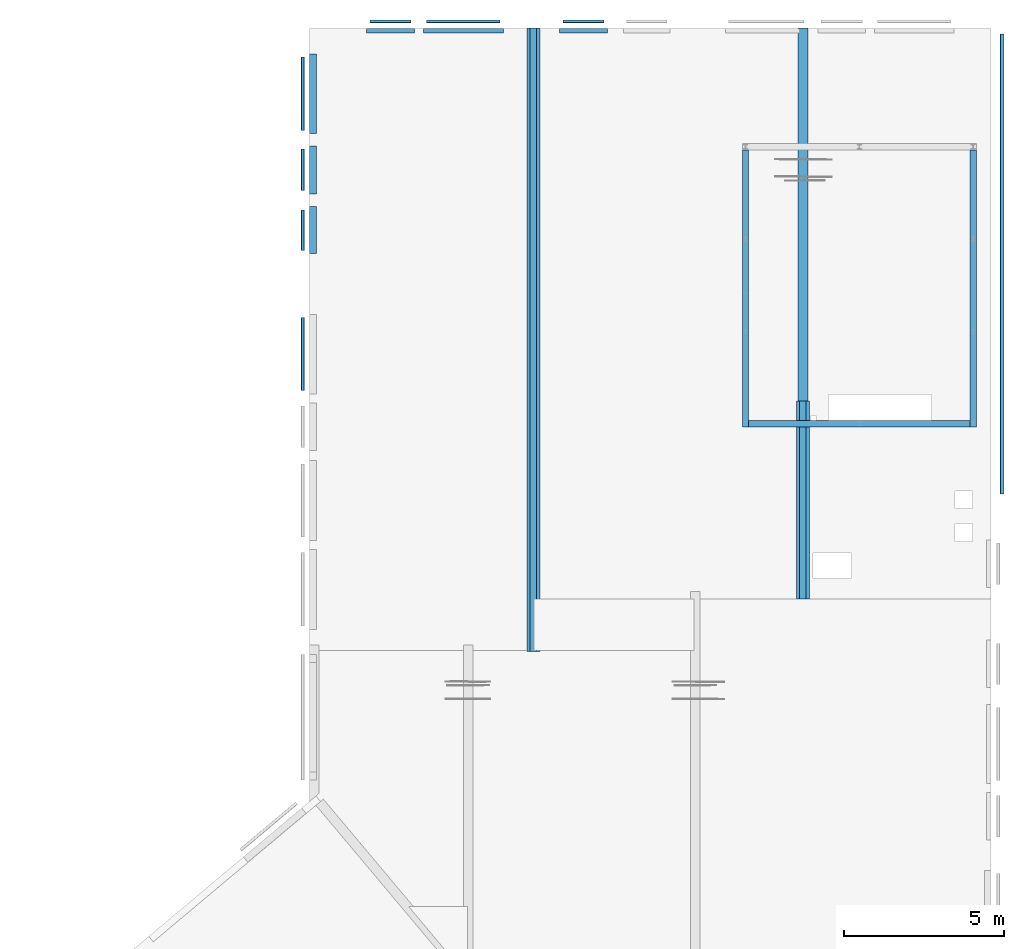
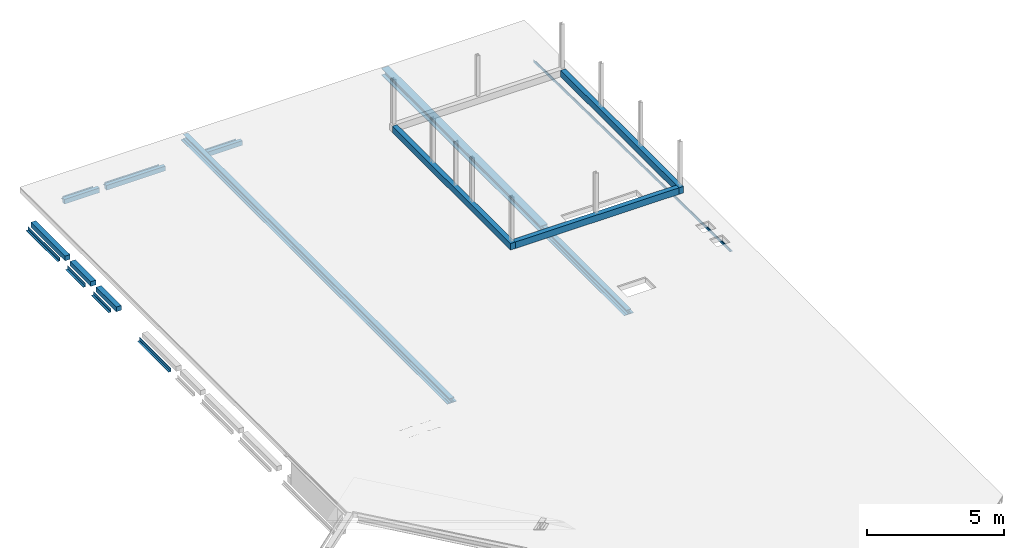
# One storey, part 5 of 9: 20 beams.
"""IFC2X3 building model written with IfcOpenShell, lengths in millimetres."""

from ifc_helpers import new_model, entity, si_unit, converted_unit, derived_unit, direction, frame, frame_2d, origin, origin_2d_with_axis, place, context, subcontext, project, spatial, polyline, circle_curve, parameter, trimmed, segment, composite_curve, rectangle, i_section, outline, extrude, source, transform, mapped, material, material_list, type_object, type_shapes, element, save


model = new_model("IFC2X3")

# Units and contexts
model_context = context("Model", 3, precision=0.01, world=origin(), true_north=direction((6.12303176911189e-17, 1.0)))
body_context = subcontext(model_context, "Body", "Model", "MODEL_VIEW")
ifc_project = project(units=[si_unit("LENGTHUNIT", "METRE", prefix="MILLI"), si_unit("AREAUNIT", "SQUARE_METRE"), si_unit("VOLUMEUNIT", "CUBIC_METRE"), converted_unit("PLANEANGLEUNIT", "DEGREE", entity("IfcRatioMeasure", 0.0174532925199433), si_unit("PLANEANGLEUNIT", "RADIAN"), dimensions=[0, 0, 0, 0, 0, 0, 0]), si_unit("MASSUNIT", "GRAM", prefix="KILO"), derived_unit("MASSDENSITYUNIT", [(si_unit("MASSUNIT", "GRAM", prefix="KILO"), 1), (si_unit("LENGTHUNIT", "METRE"), -3)]), derived_unit("MOMENTOFINERTIAUNIT", [(si_unit("LENGTHUNIT", "METRE"), 4)]), si_unit("TIMEUNIT", "SECOND"), si_unit("FREQUENCYUNIT", "HERTZ"), si_unit("THERMODYNAMICTEMPERATUREUNIT", "DEGREE_CELSIUS"), derived_unit("THERMALTRANSMITTANCEUNIT", [(si_unit("MASSUNIT", "GRAM", prefix="KILO"), 1), (si_unit("THERMODYNAMICTEMPERATUREUNIT", "KELVIN"), -1), (si_unit("TIMEUNIT", "SECOND"), -3)]), derived_unit("VOLUMETRICFLOWRATEUNIT", [(si_unit("LENGTHUNIT", "METRE"), 3), (si_unit("TIMEUNIT", "SECOND"), -1)]), si_unit("ELECTRICCURRENTUNIT", "AMPERE"), si_unit("ELECTRICVOLTAGEUNIT", "VOLT"), si_unit("POWERUNIT", "WATT"), si_unit("FORCEUNIT", "NEWTON", prefix="KILO"), si_unit("ILLUMINANCEUNIT", "LUX"), si_unit("LUMINOUSFLUXUNIT", "LUMEN"), si_unit("LUMINOUSINTENSITYUNIT", "CANDELA"), derived_unit("USERDEFINED", [(si_unit("MASSUNIT", "GRAM", prefix="KILO"), -1), (si_unit("LENGTHUNIT", "METRE"), -2), (si_unit("TIMEUNIT", "SECOND"), 3), (si_unit("LUMINOUSFLUXUNIT", "LUMEN"), 1)]), derived_unit("LINEARVELOCITYUNIT", [(si_unit("LENGTHUNIT", "METRE"), 1), (si_unit("TIMEUNIT", "SECOND"), -1)]), si_unit("PRESSUREUNIT", "PASCAL"), derived_unit("USERDEFINED", [(si_unit("LENGTHUNIT", "METRE"), -2), (si_unit("MASSUNIT", "GRAM", prefix="KILO"), 1), (si_unit("TIMEUNIT", "SECOND"), -2)]), derived_unit("LINEARFORCEUNIT", [(si_unit("MASSUNIT", "GRAM", prefix="KILO"), 1), (si_unit("LENGTHUNIT", "METRE"), 1), (si_unit("TIMEUNIT", "SECOND"), -2), (si_unit("LENGTHUNIT", "METRE"), -1)]), derived_unit("PLANARFORCEUNIT", [(si_unit("MASSUNIT", "GRAM", prefix="KILO"), 1), (si_unit("LENGTHUNIT", "METRE"), 1), (si_unit("TIMEUNIT", "SECOND"), -2), (si_unit("LENGTHUNIT", "METRE"), -2)])], contexts=[model_context])

# Site, building, storey
site_placement = place(None, origin())
site = spatial("IfcSite", under=ifc_project, at=site_placement, Name="Default", CompositionType="ELEMENT")
building_placement = place(site_placement, origin())
building = spatial("IfcBuilding", under=site, at=building_placement, CompositionType="ELEMENT")
storey_placement = place(building_placement, frame((0.0, 0.0, 7000.0)))
storey = spatial("IfcBuildingStorey", under=building, at=storey_placement, Name="02 tweede verdieping", CompositionType="ELEMENT", Elevation=7000.00000000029)

# Beams
ifc_material_1 = material(Name="h2_staal")
beam_type_1 = type_object("IfcBeamType", Name="BERSnl_28_SF_LIB_balk sfb_gen_ISR:balk gen heb200 400x15", PredefinedType="T_BEAM", material=ifc_material_1)
shared_shape_1 = source(origin(), body_context, "Body", "SweptSolid", [
    extrude(rectangle(XDim=15.0, YDim=400.0, at=origin_2d_with_axis()), frame((-1233.78521422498, 0.0, -60.5000000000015), z_axis=(1.0, 0.0, 0.0), x_axis=(0.0, 0.0, -1.0)), (0.0, 0.0, 1.0), 19429.9936123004),
    extrude(outline(composite_curve([segment(polyline([(85.0, -100.0), (100.0, -100.0)]), True, "CONTINUOUS"), segment(polyline([(100.0, -100.0), (100.0, 100.0)]), True, "CONTINUOUS"), segment(polyline([(100.0, 100.0), (85.0, 100.0)]), True, "CONTINUOUS"), segment(polyline([(85.0, 100.0), (85.0, 22.4999999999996)]), True, "CONTINUOUS"), segment(trimmed(circle_curve(frame_2d((67.0, 22.4999999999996), x_axis=(1.0, 0.0)), 18.0), [parameter(270.0)], [parameter(0.0)], True, "PARAMETER"), False, "CONTINUOUS"), segment(polyline([(67.0, 4.49999999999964), (-67.0, 4.49999999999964)]), True, "CONTINUOUS"), segment(trimmed(circle_curve(frame_2d((-67.0, 22.4999999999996), x_axis=(0.0, -1.0)), 18.0), [parameter(270.0)], [parameter(0.0)], True, "PARAMETER"), False, "CONTINUOUS"), segment(polyline([(-85.0, 22.4999999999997), (-85.0, 100.0)]), True, "CONTINUOUS"), segment(polyline([(-85.0, 100.0), (-100.0, 100.0)]), True, "CONTINUOUS"), segment(polyline([(-100.0, 100.0), (-100.0, -100.0)]), True, "CONTINUOUS"), segment(polyline([(-100.0, -100.0), (-85.0, -100.0)]), True, "CONTINUOUS"), segment(polyline([(-85.0, -100.0), (-85.0, -22.5000000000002)]), True, "CONTINUOUS"), segment(trimmed(circle_curve(frame_2d((-67.0, -22.5000000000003), x_axis=(-1.0, 0.0)), 18.0), [parameter(270.0)], [parameter(0.0)], True, "PARAMETER"), False, "CONTINUOUS"), segment(polyline([(-67.0, -4.50000000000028), (67.0, -4.50000000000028)]), True, "CONTINUOUS"), segment(trimmed(circle_curve(frame_2d((67.0, -22.5000000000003), x_axis=(0.0, 1.0)), 18.0), [parameter(270.0)], [parameter(0.0)], True, "PARAMETER"), False, "CONTINUOUS"), segment(polyline([(85.0, -22.5000000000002), (85.0, -100.0)]), True, "CONTINUOUS")], self_intersect=False)), frame((-1233.94365702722, 0.0, 47.0), z_axis=(1.0, 0.0, 0.0), x_axis=(0.0, 0.0, -1.0)), (0.0, 0.0, 1.0), 19430.1584428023),
])
type_shapes(beam_type_1, [shared_shape_1])
beam_1_placement = place(storey_placement, frame((20569.4349765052, 34273.3529712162, 893.0), z_axis=(0.0, 0.0, 1.0), x_axis=(0.0, -1.0, 0.0)))
element("IfcBeam", 1, at=beam_1_placement, inside=storey, type_object=beam_type_1, Name="BERSnl_28_SF_LIB_balk sfb_gen_ISR:balk gen heb200 400x15", ObjectType="BERSnl_28_SF_LIB_balk sfb_gen_ISR:balk gen heb200 400x15", context=body_context, shape_type="MappedRepresentation", body=[
    mapped(shared_shape_1, transform((0.0, 0.0, 0.0), scale=1.0)),
])
ifc_material_2 = material(Name="00_Staal_generiek")
beam_type_2 = type_object("IfcBeamType", Name="BERSnl_28_SF_LIB_balk hoeklijn ongelijk_gen_ISR:balk gen l150x100x10", PredefinedType="BEAM")
beam_2_placement = place(storey_placement, frame((15649.6148490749, 35679.6966282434, -60.0)))
element("IfcBeam", 2, at=beam_2_placement, inside=storey, type_object=beam_type_2, material=ifc_material_2, Name="BERSnl_28_SF_LIB_balk hoeklijn ongelijk_gen_ISR:balk gen l150x100x10", ObjectType="BERSnl_28_SF_LIB_balk hoeklijn ongelijk_gen_ISR:balk gen l150x100x10", context=body_context, shape_type="SweptSolid", body=[
    extrude(outline(composite_curve([segment(polyline([(-95.5555555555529, -37.7777777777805), (54.4444444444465, -37.7777777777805)]), True, "CONTINUOUS"), segment(polyline([(54.4444444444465, -37.7777777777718), (54.4444444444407, 62.2222222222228)]), True, "CONTINUOUS"), segment(polyline([(54.4444444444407, 62.2222222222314), (50.4444444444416, 62.2222222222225)]), True, "CONTINUOUS"), segment(trimmed(circle_curve(frame_2d((50.4444444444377, 56.2222222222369), x_axis=(0.0, 1.0)), 5.99999999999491), [parameter(0.0)], [parameter(90.0000000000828)], True, "PARAMETER"), True, "CONTINUOUS"), segment(polyline([(44.4444444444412, 56.2222222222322), (44.4444444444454, -15.7777777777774)]), True, "CONTINUOUS"), segment(trimmed(circle_curve(frame_2d((32.4444444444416, -15.7777777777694), x_axis=(1.0, 0.0)), 12.0000000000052), [parameter(270.000000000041)], [parameter(0.0)], True, "PARAMETER"), False, "CONTINUOUS"), segment(polyline([(32.4444444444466, -27.7777777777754), (-89.5555555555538, -27.7777777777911)]), True, "CONTINUOUS"), segment(trimmed(circle_curve(frame_2d((-89.5555555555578, -33.7777777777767), x_axis=(0.0, 1.0)), 5.99999999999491), [parameter(0.0)], [parameter(90.0000000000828)], True, "PARAMETER"), True, "CONTINUOUS"), segment(polyline([(-95.5555555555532, -33.7777777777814), (-95.5555555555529, -37.7777777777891)]), True, "CONTINUOUS")], self_intersect=False)), frame((-172.17987256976, 14.377777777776, -95.5555555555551), z_axis=(1.0, 0.0, 0.0), x_axis=(0.0, 0.0, -1.0)), (0.0, 0.0, 1.0), 1288.00000000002),
])
beam_3_placement = place(storey_placement, frame((17644.6148490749, 35679.6966282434, -60.0)))
element("IfcBeam", 3, at=beam_3_placement, inside=storey, type_object=beam_type_2, material=ifc_material_2, Name="BERSnl_28_SF_LIB_balk hoeklijn ongelijk_gen_ISR:balk gen l150x100x10", ObjectType="BERSnl_28_SF_LIB_balk hoeklijn ongelijk_gen_ISR:balk gen l150x100x10", context=body_context, shape_type="SweptSolid", body=[
    extrude(outline(composite_curve([segment(polyline([(-95.5555555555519, -37.7777777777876), (54.4444444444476, -37.7777777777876)]), True, "CONTINUOUS"), segment(polyline([(54.4444444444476, -37.7777777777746), (54.4444444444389, 62.2222222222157)]), True, "CONTINUOUS"), segment(polyline([(54.4444444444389, 62.2222222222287), (50.4444444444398, 62.2222222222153)]), True, "CONTINUOUS"), segment(trimmed(circle_curve(frame_2d((50.4444444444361, 56.222222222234), x_axis=(0.0, 1.0)), 5.99999999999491), [parameter(0.0)], [parameter(90.0000000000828)], True, "PARAMETER"), True, "CONTINUOUS"), segment(polyline([(44.4444444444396, 56.2222222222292), (44.4444444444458, -15.7777777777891)]), True, "CONTINUOUS"), segment(trimmed(circle_curve(frame_2d((32.444444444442, -15.7777777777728), x_axis=(1.0, 0.0)), 12.0000000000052), [parameter(270.000000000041)], [parameter(0.0)], True, "PARAMETER"), False, "CONTINUOUS"), segment(polyline([(32.4444444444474, -27.7777777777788), (-89.555555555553, -27.7777777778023)]), True, "CONTINUOUS"), segment(trimmed(circle_curve(frame_2d((-89.5555555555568, -33.7777777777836), x_axis=(0.0, 1.0)), 5.99999999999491), [parameter(0.0)], [parameter(90.0000000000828)], True, "PARAMETER"), True, "CONTINUOUS"), segment(polyline([(-95.5555555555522, -33.7777777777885), (-95.5555555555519, -37.7777777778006)]), True, "CONTINUOUS")], self_intersect=False)), frame((-397.179872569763, 14.3777777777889, -95.5555555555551), z_axis=(1.0, 0.0, 0.0), x_axis=(0.0, 0.0, -1.0)), (0.0, 0.0, 1.0), 2288.00000000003),
])
beam_4_placement = place(storey_placement, frame((13412.0349765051, 32785.7558071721, -60.0), z_axis=(0.0, 0.0, 1.0), x_axis=(0.0, 1.0, 0.0)))
element("IfcBeam", 4, at=beam_4_placement, inside=storey, type_object=beam_type_2, material=ifc_material_2, Name="BERSnl_28_SF_LIB_balk hoeklijn ongelijk_gen_ISR:balk gen l150x100x10", ObjectType="BERSnl_28_SF_LIB_balk hoeklijn ongelijk_gen_ISR:balk gen l150x100x10", context=body_context, shape_type="SweptSolid", body=[
    extrude(outline(composite_curve([segment(polyline([(-95.5555555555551, -37.7777777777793), (54.4444444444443, -37.7777777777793)]), True, "CONTINUOUS"), segment(polyline([(54.4444444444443, -37.7777777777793), (54.4444444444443, 62.222222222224)]), True, "CONTINUOUS"), segment(polyline([(54.4444444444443, 62.222222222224), (50.4444444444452, 62.222222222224)]), True, "CONTINUOUS"), segment(trimmed(circle_curve(frame_2d((50.4444444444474, 56.222222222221), x_axis=(0.0, 1.0)), 6.00000000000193), [parameter(0.0)], [parameter(89.9999999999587)], True, "PARAMETER"), True, "CONTINUOUS"), segment(polyline([(44.4444444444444, 56.2222222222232), (44.4444444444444, -15.77777777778)]), True, "CONTINUOUS"), segment(trimmed(circle_curve(frame_2d((32.4444444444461, -15.77777777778), x_axis=(1.0, 0.0)), 11.999999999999), [parameter(269.999999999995)], [parameter(0.0)], True, "PARAMETER"), False, "CONTINUOUS"), segment(polyline([(32.444444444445, -27.7777777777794), (-89.5555555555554, -27.7777777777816)]), True, "CONTINUOUS"), segment(trimmed(circle_curve(frame_2d((-89.5555555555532, -33.7777777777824), x_axis=(0.0, 1.0)), 6.00000000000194), [parameter(0.0)], [parameter(89.9999999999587)], True, "PARAMETER"), True, "CONTINUOUS"), segment(polyline([(-95.5555555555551, -33.7777777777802), (-95.5555555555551, -37.7777777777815)]), True, "CONTINUOUS")], self_intersect=False)), frame((-467.459178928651, 14.3777777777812, -95.5555555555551), z_axis=(1.0, 0.0, 0.0), x_axis=(0.0, 0.0, -1.0)), (0.0, 0.0, 1.0), 2286.0),
])
beam_5_placement = place(storey_placement, frame((13412.0349765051, 29936.0959877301, -60.0), z_axis=(0.0, 0.0, 1.0), x_axis=(0.0, 1.0, 0.0)))
element("IfcBeam", 5, at=beam_5_placement, inside=storey, type_object=beam_type_2, material=ifc_material_2, Name="BERSnl_28_SF_LIB_balk hoeklijn ongelijk_gen_ISR:balk gen l150x100x10", ObjectType="BERSnl_28_SF_LIB_balk hoeklijn ongelijk_gen_ISR:balk gen l150x100x10", context=body_context, shape_type="SweptSolid", body=[
    extrude(outline(composite_curve([segment(polyline([(-95.5555555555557, -37.7777777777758), (54.4444444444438, -37.7777777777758)]), True, "CONTINUOUS"), segment(polyline([(54.4444444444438, -37.7777777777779), (54.4444444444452, 62.2222222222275)]), True, "CONTINUOUS"), segment(polyline([(54.4444444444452, 62.2222222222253), (50.4444444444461, 62.2222222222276)]), True, "CONTINUOUS"), segment(trimmed(circle_curve(frame_2d((50.4444444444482, 56.2222222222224), x_axis=(0.0, 1.0)), 6.00000000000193), [parameter(0.0)], [parameter(89.9999999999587)], True, "PARAMETER"), True, "CONTINUOUS"), segment(polyline([(44.4444444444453, 56.2222222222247), (44.4444444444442, -15.7777777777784)]), True, "CONTINUOUS"), segment(trimmed(circle_curve(frame_2d((32.4444444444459, -15.7777777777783), x_axis=(1.0, 0.0)), 11.999999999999), [parameter(269.999999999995)], [parameter(0.0)], True, "PARAMETER"), False, "CONTINUOUS"), segment(polyline([(32.4444444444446, -27.7777777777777), (-89.5555555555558, -27.7777777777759)]), True, "CONTINUOUS"), segment(trimmed(circle_curve(frame_2d((-89.5555555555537, -33.7777777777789), x_axis=(0.0, 1.0)), 6.00000000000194), [parameter(0.0)], [parameter(89.9999999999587)], True, "PARAMETER"), True, "CONTINUOUS"), segment(polyline([(-95.5555555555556, -33.7777777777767), (-95.5555555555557, -37.7777777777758)]), True, "CONTINUOUS")], self_intersect=False)), frame((502.378379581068, 14.3777777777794, -95.5555555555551), z_axis=(1.0, 0.0, 0.0), x_axis=(0.0, 0.0, -1.0)), (0.0, 0.0, 1.0), 1298.06822809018),
])
beam_6_placement = place(storey_placement, frame((13412.0349765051, 28286.0959877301, -60.0), z_axis=(0.0, 0.0, 1.0), x_axis=(0.0, 1.0, 0.0)))
element("IfcBeam", 6, at=beam_6_placement, inside=storey, type_object=beam_type_2, material=ifc_material_2, Name="BERSnl_28_SF_LIB_balk hoeklijn ongelijk_gen_ISR:balk gen l150x100x10", ObjectType="BERSnl_28_SF_LIB_balk hoeklijn ongelijk_gen_ISR:balk gen l150x100x10", context=body_context, shape_type="SweptSolid", body=[
    extrude(outline(composite_curve([segment(polyline([(-95.5555555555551, -37.7777777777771), (54.4444444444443, -37.7777777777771)]), True, "CONTINUOUS"), segment(polyline([(54.4444444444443, -37.7777777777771), (54.4444444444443, 62.2222222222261)]), True, "CONTINUOUS"), segment(polyline([(54.4444444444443, 62.2222222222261), (50.4444444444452, 62.222222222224)]), True, "CONTINUOUS"), segment(trimmed(circle_curve(frame_2d((50.4444444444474, 56.2222222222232), x_axis=(0.0, 1.0)), 6.00000000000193), [parameter(0.0)], [parameter(89.9999999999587)], True, "PARAMETER"), True, "CONTINUOUS"), segment(polyline([(44.4444444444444, 56.2222222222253), (44.4444444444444, -15.77777777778)]), True, "CONTINUOUS"), segment(trimmed(circle_curve(frame_2d((32.4444444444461, -15.7777777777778), x_axis=(1.0, 0.0)), 11.999999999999), [parameter(269.999999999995)], [parameter(0.0)], True, "PARAMETER"), False, "CONTINUOUS"), segment(polyline([(32.444444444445, -27.7777777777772), (-89.5555555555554, -27.7777777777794)]), True, "CONTINUOUS"), segment(trimmed(circle_curve(frame_2d((-89.5555555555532, -33.7777777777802), x_axis=(0.0, 1.0)), 6.00000000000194), [parameter(0.0)], [parameter(89.9999999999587)], True, "PARAMETER"), True, "CONTINUOUS"), segment(polyline([(-95.5555555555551, -33.777777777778), (-95.5555555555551, -37.7777777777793)]), True, "CONTINUOUS")], self_intersect=False)), frame((289.636772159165, 14.3777777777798, -95.5555555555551), z_axis=(1.0, 0.0, 0.0), x_axis=(0.0, 0.0, -1.0)), (0.0, 0.0, 1.0), 1268.74160742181),
])
beam_7_placement = place(storey_placement, frame((13412.0349765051, 25091.4664529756, -60.0), z_axis=(0.0, 0.0, 1.0), x_axis=(0.0, 1.0, 0.0)))
element("IfcBeam", 7, at=beam_7_placement, inside=storey, type_object=beam_type_2, material=ifc_material_2, Name="BERSnl_28_SF_LIB_balk hoeklijn ongelijk_gen_ISR:balk gen l150x100x10", ObjectType="BERSnl_28_SF_LIB_balk hoeklijn ongelijk_gen_ISR:balk gen l150x100x10", context=body_context, shape_type="SweptSolid", body=[
    extrude(outline(composite_curve([segment(polyline([(-95.5555555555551, -37.7777777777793), (54.4444444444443, -37.7777777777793)]), True, "CONTINUOUS"), segment(polyline([(54.4444444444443, -37.7777777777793), (54.4444444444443, 62.2222222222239)]), True, "CONTINUOUS"), segment(polyline([(54.4444444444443, 62.2222222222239), (50.4444444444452, 62.2222222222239)]), True, "CONTINUOUS"), segment(trimmed(circle_curve(frame_2d((50.4444444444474, 56.222222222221), x_axis=(0.0, 1.0)), 6.00000000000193), [parameter(0.0)], [parameter(89.9999999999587)], True, "PARAMETER"), True, "CONTINUOUS"), segment(polyline([(44.4444444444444, 56.2222222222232), (44.4444444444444, -15.77777777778)]), True, "CONTINUOUS"), segment(trimmed(circle_curve(frame_2d((32.4444444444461, -15.77777777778), x_axis=(1.0, 0.0)), 11.999999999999), [parameter(269.999999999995)], [parameter(0.0)], True, "PARAMETER"), False, "CONTINUOUS"), segment(polyline([(32.444444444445, -27.7777777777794), (-89.5555555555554, -27.7777777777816)]), True, "CONTINUOUS"), segment(trimmed(circle_curve(frame_2d((-89.5555555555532, -33.7777777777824), x_axis=(0.0, 1.0)), 6.00000000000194), [parameter(0.0)], [parameter(89.9999999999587)], True, "PARAMETER"), True, "CONTINUOUS"), segment(polyline([(-95.5555555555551, -33.7777777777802), (-95.5555555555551, -37.7777777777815)]), True, "CONTINUOUS")], self_intersect=False)), frame((-884.455200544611, 14.37777777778, -95.5555555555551), z_axis=(1.0, 0.0, 0.0), x_axis=(0.0, 0.0, -1.0)), (0.0, 0.0, 1.0), 2277.87187512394),
])
beam_8_placement = place(storey_placement, frame((21704.6148490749, 35679.6966282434, -60.0)))
element("IfcBeam", 8, at=beam_8_placement, inside=storey, type_object=beam_type_2, material=ifc_material_2, Name="BERSnl_28_SF_LIB_balk hoeklijn ongelijk_gen_ISR:balk gen l150x100x10", ObjectType="BERSnl_28_SF_LIB_balk hoeklijn ongelijk_gen_ISR:balk gen l150x100x10", context=body_context, shape_type="SweptSolid", body=[
    extrude(outline(composite_curve([segment(polyline([(-95.5555555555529, -37.7777777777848), (54.4444444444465, -37.7777777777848)]), True, "CONTINUOUS"), segment(polyline([(54.4444444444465, -37.7777777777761), (54.4444444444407, 62.2222222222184)]), True, "CONTINUOUS"), segment(polyline([(54.4444444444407, 62.2222222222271), (50.4444444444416, 62.2222222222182)]), True, "CONTINUOUS"), segment(trimmed(circle_curve(frame_2d((50.4444444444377, 56.2222222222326), x_axis=(0.0, 1.0)), 5.99999999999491), [parameter(0.0)], [parameter(90.0000000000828)], True, "PARAMETER"), True, "CONTINUOUS"), segment(polyline([(44.4444444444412, 56.2222222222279), (44.4444444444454, -15.7777777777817)]), True, "CONTINUOUS"), segment(trimmed(circle_curve(frame_2d((32.4444444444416, -15.7777777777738), x_axis=(1.0, 0.0)), 12.0000000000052), [parameter(270.000000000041)], [parameter(0.0)], True, "PARAMETER"), False, "CONTINUOUS"), segment(polyline([(32.4444444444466, -27.7777777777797), (-89.5555555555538, -27.7777777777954)]), True, "CONTINUOUS"), segment(trimmed(circle_curve(frame_2d((-89.5555555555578, -33.777777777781), x_axis=(0.0, 1.0)), 5.99999999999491), [parameter(0.0)], [parameter(90.0000000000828)], True, "PARAMETER"), True, "CONTINUOUS"), segment(polyline([(-95.5555555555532, -33.7777777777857), (-95.5555555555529, -37.7777777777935)]), True, "CONTINUOUS")], self_intersect=False)), frame((-217.179872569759, 14.377777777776, -95.5555555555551), z_axis=(1.0, 0.0, 0.0), x_axis=(0.0, 0.0, -1.0)), (0.0, 0.0, 1.0), 1288.00000000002),
])
ifc_material_3 = material(Name="f2_beton prefab")
beam_type_3 = type_object("IfcBeamType", Name="BERSnl_28_SF_LIB_balk vierkant prefab_gen_ISR:balk vierkant gen 150x210", PredefinedType="JOIST")
beam_9_placement = place(storey_placement, frame((16892.0442349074, 35420.9488747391, 10.0), z_axis=(0.0, 0.0, 1.0), x_axis=(-1.0, 0.0, 0.0)))
element("IfcBeam", 9, at=beam_9_placement, inside=storey, type_object=beam_type_3, material=ifc_material_3, Name="BERSnl_28_SF_LIB_balk vierkant prefab_gen_ISR:balk vierkant gen 150x210", ObjectType="BERSnl_28_SF_LIB_balk vierkant prefab_gen_ISR:balk vierkant gen 150x210", context=body_context, shape_type="SweptSolid", body=[
    extrude(rectangle(XDim=210.000000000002, YDim=149.999999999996, at=frame_2d((0.0, 6.50146603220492e-12), x_axis=(1.0, 0.0))), frame((26.6092584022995, 0.0, -105.0), z_axis=(1.0, 0.0, 0.0), x_axis=(0.0, 0.0, -1.0)), (0.0, 0.0, 1.0), 1488.00000000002),
])
beam_10_placement = place(storey_placement, frame((18887.0442349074, 35420.9488747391, 10.0), z_axis=(0.0, 0.0, 1.0), x_axis=(-1.0, 0.0, 0.0)))
element("IfcBeam", 10, at=beam_10_placement, inside=storey, type_object=beam_type_3, material=ifc_material_3, Name="BERSnl_28_SF_LIB_balk vierkant prefab_gen_ISR:balk vierkant gen 150x210", ObjectType="BERSnl_28_SF_LIB_balk vierkant prefab_gen_ISR:balk vierkant gen 150x210", context=body_context, shape_type="SweptSolid", body=[
    extrude(rectangle(XDim=210.000000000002, YDim=149.999999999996, at=frame_2d((0.0, 6.49436060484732e-12), x_axis=(1.0, 0.0))), frame((-748.390741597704, 0.0, -105.0), z_axis=(1.0, 0.0, 0.0), x_axis=(0.0, 0.0, -1.0)), (0.0, 0.0, 1.0), 2488.00000000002),
])
beam_11_placement = place(storey_placement, frame((22947.0442349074, 35420.9488747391, 10.0), z_axis=(0.0, 0.0, 1.0), x_axis=(-1.0, 0.0, 0.0)))
element("IfcBeam", 11, at=beam_11_placement, inside=storey, type_object=beam_type_3, material=ifc_material_3, Name="BERSnl_28_SF_LIB_balk vierkant prefab_gen_ISR:balk vierkant gen 150x210", ObjectType="BERSnl_28_SF_LIB_balk vierkant prefab_gen_ISR:balk vierkant gen 150x210", context=body_context, shape_type="SweptSolid", body=[
    extrude(rectangle(XDim=210.000000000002, YDim=149.999999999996, at=frame_2d((0.0, 6.50146603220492e-12), x_axis=(1.0, 0.0))), frame((71.6092584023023, 0.0, -105.0), z_axis=(1.0, 0.0, 0.0), x_axis=(0.0, 0.0, -1.0)), (0.0, 0.0, 1.0), 1488.00000000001),
])
beam_type_4 = type_object("IfcBeamType", Name="BERSnl_28_SF_LIB_balk vierkant prefab_gen_ISR:balk vierkant gen 214x210", PredefinedType="JOIST")
beam_12_placement = place(storey_placement, frame((13702.4349765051, 32738.3877337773, 10.0), z_axis=(0.0, 0.0, 1.0), x_axis=(0.0, 1.0, 0.0)))
element("IfcBeam", 12, at=beam_12_placement, inside=storey, type_object=beam_type_4, material=ifc_material_3, Name="BERSnl_28_SF_LIB_balk vierkant prefab_gen_ISR:balk vierkant gen 214x210", ObjectType="BERSnl_28_SF_LIB_balk vierkant prefab_gen_ISR:balk vierkant gen 214x210", context=body_context, shape_type="SweptSolid", body=[
    extrude(rectangle(XDim=210.000000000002, YDim=213.999999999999, at=frame_2d((0.0, 2.16715534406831e-12), x_axis=(1.0, 0.0))), frame((-520.091105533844, 0.0, -105.0), z_axis=(1.0, 0.0, 0.0), x_axis=(0.0, 0.0, -1.0)), (0.0, 0.0, 1.0), 2486.0),
])
beam_13_placement = place(storey_placement, frame((13702.4349765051, 29888.7279143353, 10.0), z_axis=(0.0, 0.0, 1.0), x_axis=(0.0, 1.0, 0.0)))
element("IfcBeam", 13, at=beam_13_placement, inside=storey, type_object=beam_type_4, material=ifc_material_3, Name="BERSnl_28_SF_LIB_balk vierkant prefab_gen_ISR:balk vierkant gen 214x210", ObjectType="BERSnl_28_SF_LIB_balk vierkant prefab_gen_ISR:balk vierkant gen 214x210", context=body_context, shape_type="SweptSolid", body=[
    extrude(rectangle(XDim=210.000000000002, YDim=213.999999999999, at=origin_2d_with_axis()), frame((449.746452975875, 0.0, -105.0), z_axis=(1.0, 0.0, 0.0), x_axis=(0.0, 0.0, -1.0)), (0.0, 0.0, 1.0), 1498.0682280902),
])
beam_14_placement = place(storey_placement, frame((13702.4349765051, 28238.7279143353, 10.0), z_axis=(0.0, 0.0, 1.0), x_axis=(0.0, 1.0, 0.0)))
element("IfcBeam", 14, at=beam_14_placement, inside=storey, type_object=beam_type_4, material=ifc_material_3, Name="BERSnl_28_SF_LIB_balk vierkant prefab_gen_ISR:balk vierkant gen 214x210", ObjectType="BERSnl_28_SF_LIB_balk vierkant prefab_gen_ISR:balk vierkant gen 214x210", context=body_context, shape_type="SweptSolid", body=[
    extrude(rectangle(XDim=210.000000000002, YDim=213.999999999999, at=origin_2d_with_axis()), frame((238.524070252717, 0.0, -105.0), z_axis=(1.0, 0.0, 0.0), x_axis=(0.0, 0.0, -1.0)), (0.0, 0.0, 1.0), 1467.22238272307),
])
beam_type_5 = type_object("IfcBeamType", Name="BERSnl_28_SF_LIB_balk heb_gen_ISR:balk gen heb320", PredefinedType="BEAM")
beam_15_placement = place(storey_placement, frame((28969.4349765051, 33084.6748126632, 1061.0), z_axis=(0.0, 0.0, 1.0), x_axis=(0.0, 1.0, 0.0)))
element("IfcBeam", 15, at=beam_15_placement, inside=storey, type_object=beam_type_5, material=ifc_material_2, Name="BERSnl_28_SF_LIB_balk heb_gen_ISR:balk gen heb320", ObjectType="BERSnl_28_SF_LIB_balk heb_gen_ISR:balk gen heb320", context=body_context, shape_type="SweptSolid", body=[
    extrude(i_section(OverallWidth=300.000000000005, OverallDepth=320.0, WebThickness=11.4999999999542, FlangeThickness=20.5000000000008, FilletRadius=26.9999999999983, at=frame_2d((-5.40012479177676e-13, 0.0), x_axis=(0.0, 1.0))), frame((-9192.37818441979, 0.0, -160.0), z_axis=(1.0, 0.0, 0.0), x_axis=(0.0, 0.0, -1.0)), (0.0, 0.0, 1.0), 11615.0),
])
ifc_material_4 = material(Name="<Unnamed>")
ifc_material_list = material_list([ifc_material_4, ifc_material_2])
beam_type_6 = type_object("IfcBeamType", Name="BERSnl_28_SF_LIB_balk sfb_gen_ISR:balk gen heb200 400x15", PredefinedType="T_BEAM", material=ifc_material_list)
shared_shape_2 = source(origin(), body_context, "Body", "SweptSolid", [
    extrude(rectangle(XDim=15.0, YDim=400.0, at=origin_2d_with_axis()), frame((-2986.18506438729, 0.0, -60.5000000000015), z_axis=(1.0, 0.0, 0.0), x_axis=(0.0, 0.0, -1.0)), (0.0, 0.0, 1.0), 6172.3701287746),
    extrude(outline(composite_curve([segment(polyline([(85.0, -100.0), (100.0, -100.0)]), True, "CONTINUOUS"), segment(polyline([(100.0, -100.0), (100.0, 100.0)]), True, "CONTINUOUS"), segment(polyline([(100.0, 100.0), (85.0, 100.0)]), True, "CONTINUOUS"), segment(polyline([(85.0, 100.0), (85.0, 22.4999999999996)]), True, "CONTINUOUS"), segment(trimmed(circle_curve(frame_2d((67.0, 22.4999999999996), x_axis=(1.0, 0.0)), 18.0), [parameter(270.0)], [parameter(0.0)], True, "PARAMETER"), False, "CONTINUOUS"), segment(polyline([(67.0, 4.49999999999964), (-67.0, 4.49999999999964)]), True, "CONTINUOUS"), segment(trimmed(circle_curve(frame_2d((-67.0, 22.4999999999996), x_axis=(0.0, -1.0)), 18.0), [parameter(270.0)], [parameter(0.0)], True, "PARAMETER"), False, "CONTINUOUS"), segment(polyline([(-85.0, 22.4999999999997), (-85.0, 100.0)]), True, "CONTINUOUS"), segment(polyline([(-85.0, 100.0), (-100.0, 100.0)]), True, "CONTINUOUS"), segment(polyline([(-100.0, 100.0), (-100.0, -100.0)]), True, "CONTINUOUS"), segment(polyline([(-100.0, -100.0), (-85.0, -100.0)]), True, "CONTINUOUS"), segment(polyline([(-85.0, -100.0), (-85.0, -22.5000000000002)]), True, "CONTINUOUS"), segment(trimmed(circle_curve(frame_2d((-67.0, -22.5000000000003), x_axis=(-1.0, 0.0)), 18.0), [parameter(270.0)], [parameter(0.0)], True, "PARAMETER"), False, "CONTINUOUS"), segment(polyline([(-67.0, -4.50000000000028), (67.0, -4.50000000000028)]), True, "CONTINUOUS"), segment(trimmed(circle_curve(frame_2d((67.0, -22.5000000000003), x_axis=(0.0, 1.0)), 18.0), [parameter(270.0)], [parameter(0.0)], True, "PARAMETER"), False, "CONTINUOUS"), segment(polyline([(85.0, -22.5000000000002), (85.0, -100.0)]), True, "CONTINUOUS")], self_intersect=False)), frame((-2986.18506438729, 0.0, 47.0), z_axis=(1.0, 0.0, 0.0), x_axis=(0.0, 0.0, -1.0)), (0.0, 0.0, 1.0), 6172.3701287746),
])
type_shapes(beam_type_6, [shared_shape_2])
beam_16_placement = place(storey_placement, frame((28969.4349765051, 20706.1115638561, 893.0), z_axis=(0.0, 0.0, 1.0), x_axis=(0.0, 1.0, 0.0)))
element("IfcBeam", 16, at=beam_16_placement, inside=storey, type_object=beam_type_6, Name="BERSnl_28_SF_LIB_balk sfb_gen_ISR:balk gen heb200 400x15", ObjectType="BERSnl_28_SF_LIB_balk sfb_gen_ISR:balk gen heb200 400x15", context=body_context, shape_type="MappedRepresentation", body=[
    mapped(shared_shape_2, transform((0.0, 0.0, 0.0), scale=1.0)),
])
ifc_material_5 = material(Name="f2_beton ihwg")
beam_type_7 = type_object("IfcBeamType", Name="BERSnl_28_SF_LIB_balk vierkant beton_gen_ISR:balk vierkant_gen200x350", PredefinedType="JOIST")
beam_17_placement = place(storey_placement, frame((34269.4270571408, 23181.2966282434, 1390.0), z_axis=(0.0, 0.0, 1.0), x_axis=(0.0, 1.0, 0.0)))
element("IfcBeam", 17, at=beam_17_placement, inside=storey, type_object=beam_type_7, material=ifc_material_5, Name="BERSnl_28_SF_LIB_balk vierkant beton_gen_ISR:balk vierkant_gen200x350", ObjectType="BERSnl_28_SF_LIB_balk vierkant beton_gen_ISR:balk vierkant_gen200x350", context=body_context, shape_type="SweptSolid", body=[
    extrude(rectangle(XDim=290.0, YDim=200.000000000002, at=frame_2d((5.40012479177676e-13, 8.66151594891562e-12), x_axis=(1.0, 0.0))), frame((-100.0, 0.0, -145.0), z_axis=(1.0, 0.0, 0.0), x_axis=(0.0, 0.0, -1.0)), (0.0, 0.0, 1.0), 8625.00000000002),
])
beam_18_placement = place(storey_placement, frame((27179.4270571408, 23181.2966282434, 1390.0), z_axis=(0.0, 0.0, 1.0), x_axis=(0.0, 1.0, 0.0)))
element("IfcBeam", 18, at=beam_18_placement, inside=storey, type_object=beam_type_7, material=ifc_material_5, Name="BERSnl_28_SF_LIB_balk vierkant beton_gen_ISR:balk vierkant_gen200x350", ObjectType="BERSnl_28_SF_LIB_balk vierkant beton_gen_ISR:balk vierkant_gen200x350", context=body_context, shape_type="SweptSolid", body=[
    extrude(rectangle(XDim=290.0, YDim=200.000000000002, at=frame_2d((5.40012479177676e-13, 6.50146603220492e-12), x_axis=(1.0, 0.0))), frame((-100.0, 0.0, -145.0), z_axis=(1.0, 0.0, 0.0), x_axis=(0.0, 0.0, -1.0)), (0.0, 0.0, 1.0), 8625.00000000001),
])
beam_19_placement = place(storey_placement, frame((27179.4270571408, 23181.2966282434, 1390.0)))
element("IfcBeam", 19, at=beam_19_placement, inside=storey, type_object=beam_type_7, material=ifc_material_5, Name="BERSnl_28_SF_LIB_balk vierkant beton_gen_ISR:balk vierkant_gen200x350", ObjectType="BERSnl_28_SF_LIB_balk vierkant beton_gen_ISR:balk vierkant_gen200x350", context=body_context, shape_type="SweptSolid", body=[
    extrude(rectangle(XDim=290.0, YDim=200.000000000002, at=frame_2d((5.40012479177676e-13, 3.03188585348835e-11), x_axis=(1.0, 0.0))), frame((100.0, 0.0, -145.0), z_axis=(1.0, 0.0, 0.0), x_axis=(0.0, 0.0, -1.0)), (0.0, 0.0, 1.0), 6889.99999999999),
])
beam_type_8 = type_object("IfcBeamType", Name="BERSnl_28_SF_LIB_balk hoeklijn_gen_ISR:balk gen l120x10", PredefinedType="BEAM")
beam_20_placement = place(storey_placement, frame((35146.5270571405, 24592.8265690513, -470.496097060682), z_axis=(0.0, 0.0168230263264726, 0.999858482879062), x_axis=(0.0, -0.999858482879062, 0.0168230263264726)))
element("IfcBeam", 20, at=beam_20_placement, inside=storey, type_object=beam_type_8, material=ifc_material_2, Name="BERSnl_28_SF_LIB_balk hoeklijn_gen_ISR:balk gen l120x10", ObjectType="BERSnl_28_SF_LIB_balk hoeklijn_gen_ISR:balk gen l120x10", context=body_context, shape_type="SweptSolid", body=[
    extrude(outline(composite_curve([segment(polyline([(-75.5555555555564, -44.4444444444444), (44.4444444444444, -44.4444444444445)]), True, "CONTINUOUS"), segment(polyline([(44.4444444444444, -44.4444444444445), (44.4444444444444, 75.5555555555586)]), True, "CONTINUOUS"), segment(polyline([(44.4444444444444, 75.5555555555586), (40.9444444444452, 75.5555555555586)]), True, "CONTINUOUS"), segment(trimmed(circle_curve(frame_2d((40.944444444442, 69.0555555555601), x_axis=(0.0, 1.0)), 6.49999999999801), [parameter(0.0)], [parameter(90.0000000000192)], True, "PARAMETER"), True, "CONTINUOUS"), segment(polyline([(34.4444444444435, 69.0555555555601), (34.4444444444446, -21.4444444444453)]), True, "CONTINUOUS"), segment(trimmed(circle_curve(frame_2d((21.444444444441, -21.4444444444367), x_axis=(1.0, 0.0)), 13.0000000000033), [parameter(270.000000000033)], [parameter(0.0)], True, "PARAMETER"), False, "CONTINUOUS"), segment(polyline([(21.4444444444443, -34.4444444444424), (-69.0555555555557, -34.4444444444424)]), True, "CONTINUOUS"), segment(trimmed(circle_curve(frame_2d((-69.0555555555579, -40.9444444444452), x_axis=(0.0, 1.0)), 6.4999999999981), [parameter(0.0)], [parameter(90.0000000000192)], True, "PARAMETER"), True, "CONTINUOUS"), segment(polyline([(-75.5555555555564, -40.9444444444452), (-75.5555555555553, -44.4444444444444)]), True, "CONTINUOUS")], self_intersect=False)), frame((-10733.2613073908, 11.344444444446, -75.5555555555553), z_axis=(1.0, 0.0, 0.0), x_axis=(0.0, 0.0, -1.0)), (0.0, 0.0, 1.0), 14330.1208269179),
])

save(model, "model.ifc")
